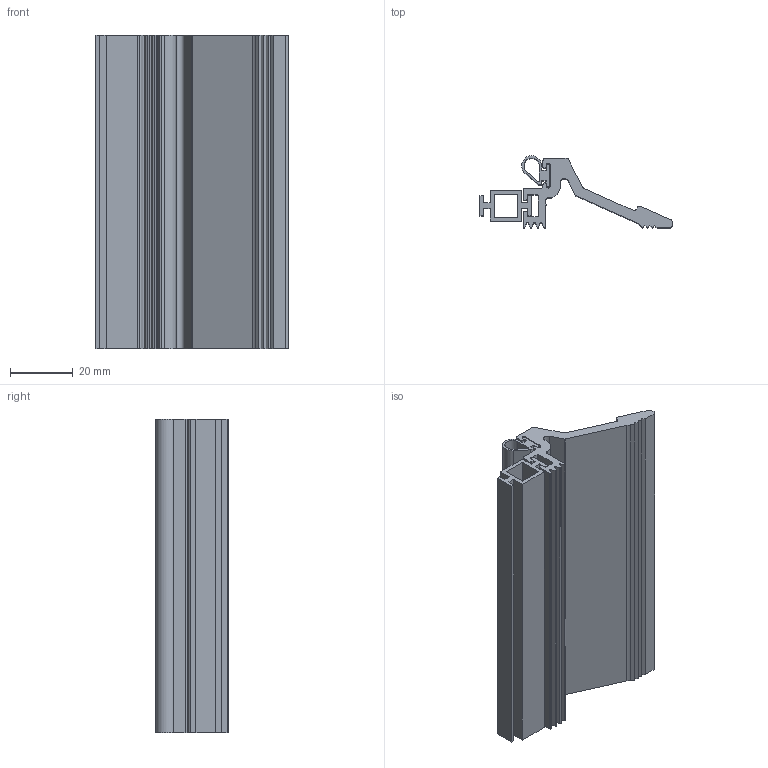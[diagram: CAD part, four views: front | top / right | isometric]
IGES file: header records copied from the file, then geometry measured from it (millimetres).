
Global section: file name: No Iges File Name specified; native system: Autodesk Inventor 2012; preprocessor: AutoDesk Inventor Iges Exporter R2012; author: anna.b; date: 20130718.144100; units: millimetre
Bounding box: 61.47 x 23.02 x 100 mm (x, y, z)
Volume: 35931.5 mm3; surface area: 34469.3 mm2
Topology: 3 solids, 3 shells, 123 faces, 351 edges, 234 vertices
Faces by surface type: plane 86, cylinder 20, revolution 17
